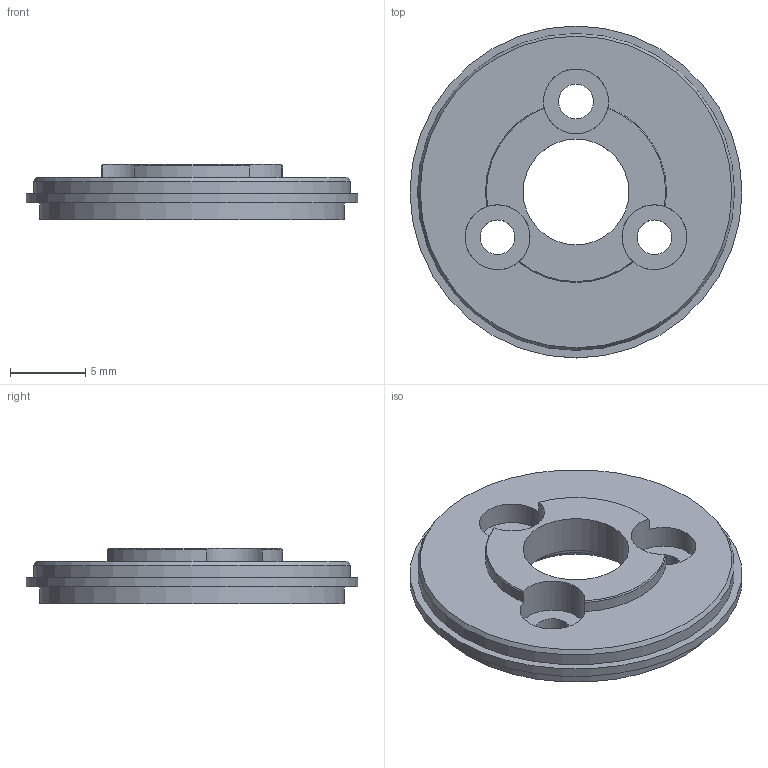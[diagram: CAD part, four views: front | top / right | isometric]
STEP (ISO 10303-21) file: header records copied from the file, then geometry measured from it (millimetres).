
FILE_DESCRIPTION(/* description */ (''),/* implementation_level */ '2;1');
FILE_NAME(/* name */ '22-GPT_flange_b.stp',/* time_stamp */ '2019-07-23T09:09:58+02:00',/* author */ ('DR. FRITZ FAULHABER GmbH & Co. KG'),/* organization */ ('DR. FRITZ FAULHABER GmbH & Co. KG'),/* preprocessor_version */ 'ST-DEVELOPER v16.7',/* originating_system */ 'SIEMENS PLM Software NX 12.0',/* authorisation */ '');
FILE_SCHEMA (('AUTOMOTIVE_DESIGN { 1 0 10303 214 3 1 1 1 }'));
Length unit declared in the file: millimetre
Products named in the file (1): F0010745300-E-416.4923.03
Bounding box: 22 x 22 x 3.65 mm (x, y, z)
Volume: 788.9 mm3; surface area: 1042.8 mm2
Topology: 1 solids, 1 shells, 28 faces, 67 edges, 45 vertices
Faces by surface type: cylinder 14, plane 9, cone 5
Full cylindrical faces by diameter (mm): 2.3 x3, 4.3 x3, 7 x1, 9 x1, 20.2 x1, 21 x1, 22 x1
Entity records: 762 total; most frequent: DIRECTION 136, CARTESIAN_POINT 134, ORIENTED_EDGE 96, AXIS2_PLACEMENT_3D 65, EDGE_LOOP 53, EDGE_CURVE 48, FACE_BOUND 47, VERTEX_POINT 39
